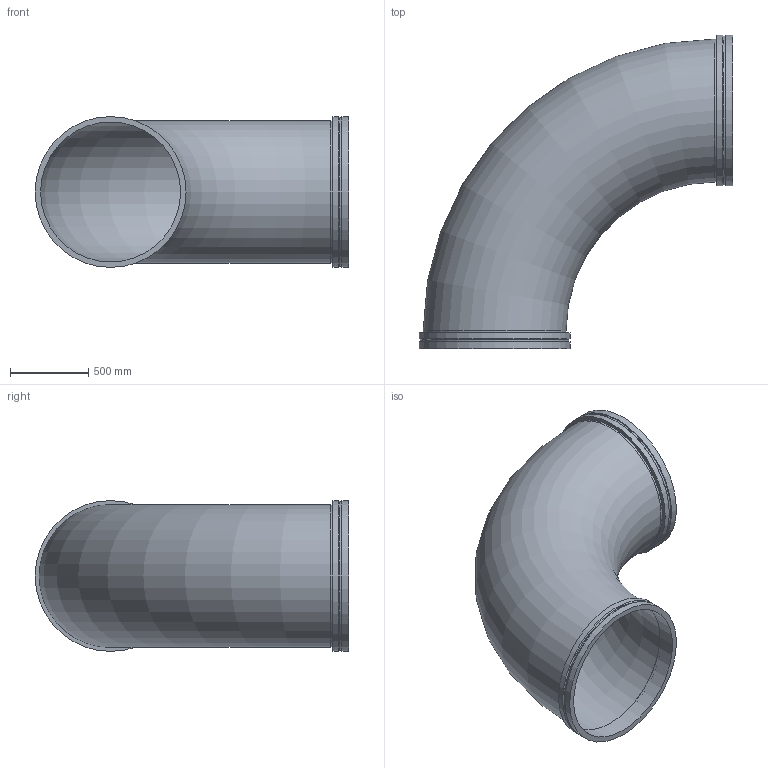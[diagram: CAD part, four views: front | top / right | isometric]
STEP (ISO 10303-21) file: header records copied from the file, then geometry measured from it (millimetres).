
FILE_DESCRIPTION(/* description */ ('VIC 90 DEG ELBOW No W100 VR','CAx-IF Rec.Pracs.---Representation and Presentation of Product Manufacturing Information (PMI)---4.0---2014-10-13'),/* implementation_level */ '2;1');
FILE_NAME(/* name */ 'C:\Users\kkamble\AppData\Roaming\Autodesk\ApplicationPlugins\Back Up\Victaulic_Vic-Ring_Elbow 90 Deg LR_No W100 VR (AGR)\Victaulic_Vic-Ring_Elbow 90 Deg LR_No W100 VR (AGR)_36 (900).stp',/* time_stamp */ '2020-09-10T11:44:19+05:00',/* author */ ('cps_temp'),/* organization */ ('Victaulic'),/* preprocessor_version */ 'ST-DEVELOPER v17.2',/* originating_system */ 'Autodesk Inventor 2019',/* authorisation */ '');
FILE_SCHEMA (('AP242_MANAGED_MODEL_BASED_3D_ENGINEERING_MIM_LF { 1 0 10303 442 1 1 4 }'));
Length unit declared in the file: inch
Products named in the file (1): W100 VR-36.0
Bounding box: 2006.6 x 2006.6 x 965.2 mm (x, y, z)
Volume: 80661995.3 mm3; surface area: 14338326.4 mm2
Topology: 1 solids, 1 shells, 20 faces, 51 edges, 37 vertices
Faces by surface type: cylinder 10, plane 6, cone 2, torus 2
Full cylindrical faces by diameter (mm): 895.35 x2, 914.4 x2, 950.722 x2, 965.2 x4
Entity records: 802 total; most frequent: DIRECTION 158, CARTESIAN_POINT 126, ORIENTED_EDGE 102, AXIS2_PLACEMENT_3D 73, EDGE_CURVE 51, CIRCLE 39, VERTEX_POINT 37, EDGE_LOOP 26
